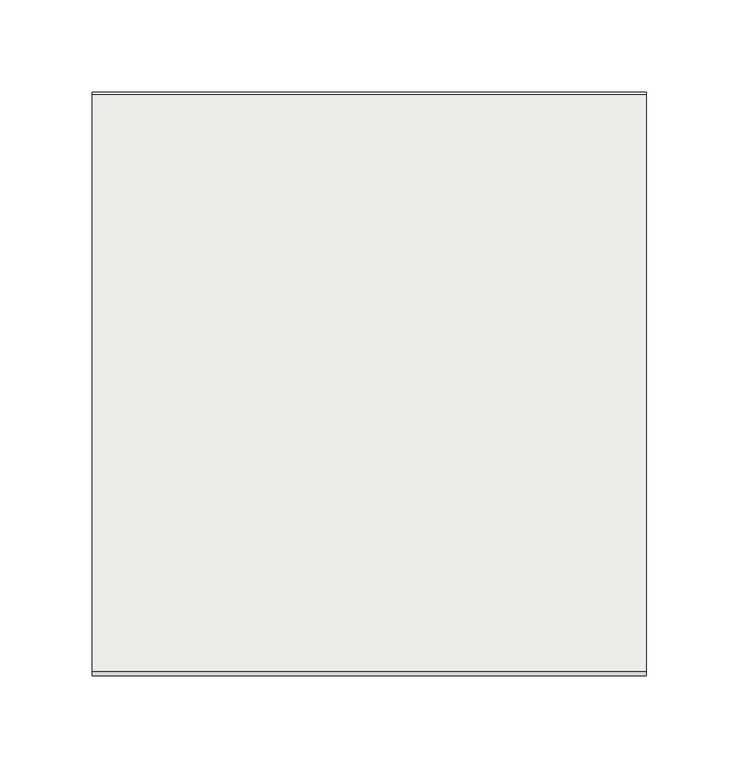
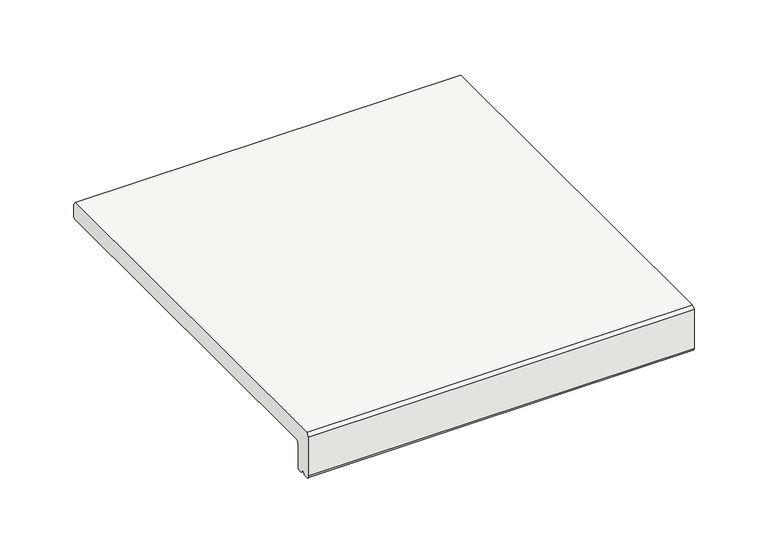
"""IFC4 building model written with IfcOpenShell, lengths in millimetres: slab geometry, ROSA GRES_L62 : Pieza L62_Tresor_Java_Anti-Slip."""

from ifc_helpers import new_model, si_unit, point, frame, frame_2d, origin, place, context, project, spatial, polyline, circle_curve, trimmed, segment, composite_curve, outline, extrude, source, transform, mapped, element, save


def slab_c104f72b(model_context):
    return source(origin(), model_context, "Body", "SweptSolid", [
        extrude(outline(composite_curve([segment(polyline([(12.1001991, -37.0), (9.4054777, -37.0)]), True, "CONTINUOUS"), segment(trimmed(circle_curve(frame_2d((7.4142134, -37.0)), 1.9912643), [point((9.4054777, -37.0))], [point((5.422949, -37.0))], True, "CARTESIAN"), True, "CONTINUOUS"), segment(polyline([(5.422949, -37.0), (2.5, -37.0)]), True, "CONTINUOUS"), segment(trimmed(circle_curve(frame_2d((2.5, -34.5)), 2.5), [point((2.5, -37.0))], [point((0.0, -34.5))], False, "CARTESIAN"), True, "CONTINUOUS"), segment(polyline([(0.0, -34.5), (0.0, -2.5), (2.5, 0.0), (315.5, 0.0), (317.0, -2.5), (317.0, -12.4648352)]), True, "CONTINUOUS"), segment(trimmed(circle_curve(frame_2d((315.5234432, -12.4648352)), 1.4765568), [point((317.0, -12.4648352))], [point((315.5234432, -13.9413919))], False, "CARTESIAN"), True, "CONTINUOUS"), segment(polyline([(315.5234432, -13.9413919), (16.6422322, -13.9413919)]), True, "CONTINUOUS"), segment(trimmed(circle_curve(frame_2d((16.6422322, -16.5836242)), 2.6422322), [point((16.6422322, -13.9413919))], [point((14.0, -16.5836242))], True, "CARTESIAN"), True, "CONTINUOUS"), segment(polyline([(14.0, -16.5836242), (14.0, -35.1001991)]), True, "CONTINUOUS"), segment(trimmed(circle_curve(frame_2d((12.1001991, -35.1001991)), 1.8998009), [point((14.0, -35.1001991))], [point((12.1001991, -37.0))], False, "CARTESIAN"), True, "CONTINUOUS")], self_intersect=False)), frame((0.0, 0.0, 0.0), z_axis=(1.0, 0.0, 0.0), x_axis=(0.0, 1.0, 0.0)), (0.0, 0.0, 1.0), 301.0),
    ])


if __name__ == "__main__":
    model = new_model("IFC4")
    model_context = context("Model", 3, world=origin())
    ifc_project = project(units=[si_unit("LENGTHUNIT", "METRE", prefix="MILLI")], contexts=[model_context])
    site = spatial("IfcSite", under=ifc_project)
    building = spatial("IfcBuilding", under=site)
    placement = place(None, origin())
    slab_shape = slab_c104f72b(model_context)
    element("IfcSlab", 1, ObjectType="ROSA GRES_L62 : Pieza L62_Tresor_Java_Anti-Slip", at=placement, inside=building, context=model_context, shape_type="MappedRepresentation", body=[
        mapped(slab_shape, transform((0.0, 0.0, 0.0), x_axis=(1.0, 0.0, 0.0), y_axis=(0.0, 1.0, 0.0), z_axis=(0.0, 0.0, 1.0))),
    ])
    save(model, "model.ifc")
